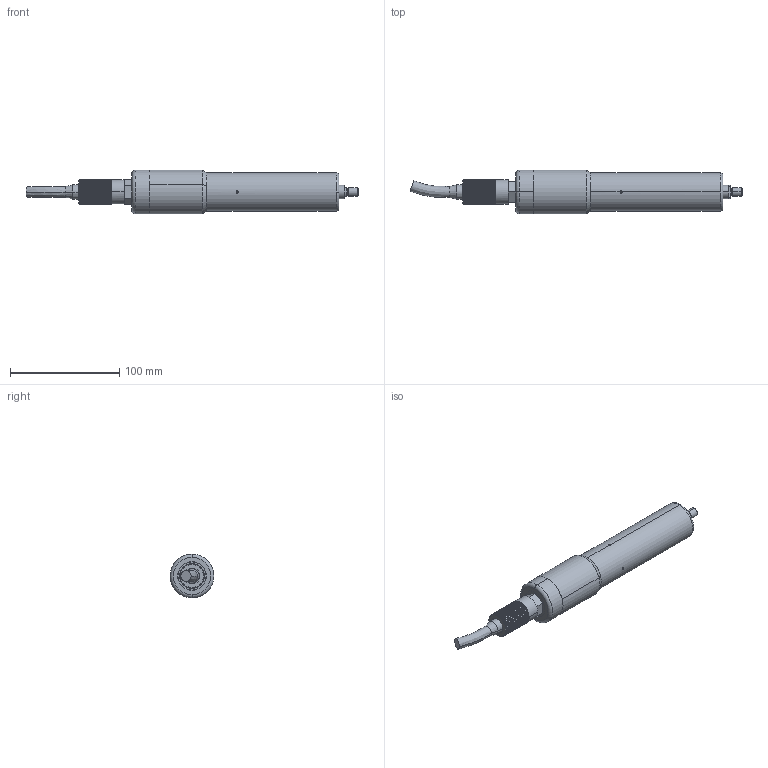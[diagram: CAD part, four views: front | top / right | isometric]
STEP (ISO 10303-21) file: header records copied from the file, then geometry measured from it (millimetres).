
FILE_DESCRIPTION (( 'STEP AP214' ), '1' );
FILE_NAME ('S125-5AJ50.STEP', '2025-04-10T10:25:13', ( '' ), ( '' ), 'SwSTEP 2.0', 'SolidWorks 2023', '' );
FILE_SCHEMA (( 'AUTOMOTIVE_DESIGN' ));
Length unit declared in the file: millimetre
Products named in the file (1): S125-5AJ50
Bounding box: 303.45 x 40 x 40 mm (x, y, z)
Surface area: 35238.7 mm2 (no closed solid volume)
Topology: 0 solids, 11 shells, 217 faces, 890 edges, 594 vertices
Faces by surface type: cylinder 164, plane 25, cone 16, torus 10, bspline 2
Entity records: 11794 total; most frequent: CARTESIAN_POINT 4461, DIRECTION 1598, ORIENTED_EDGE 1480, EDGE_CURVE 890, AXIS2_PLACEMENT_3D 647, VERTEX_POINT 594, CIRCLE 431, LINE 304
